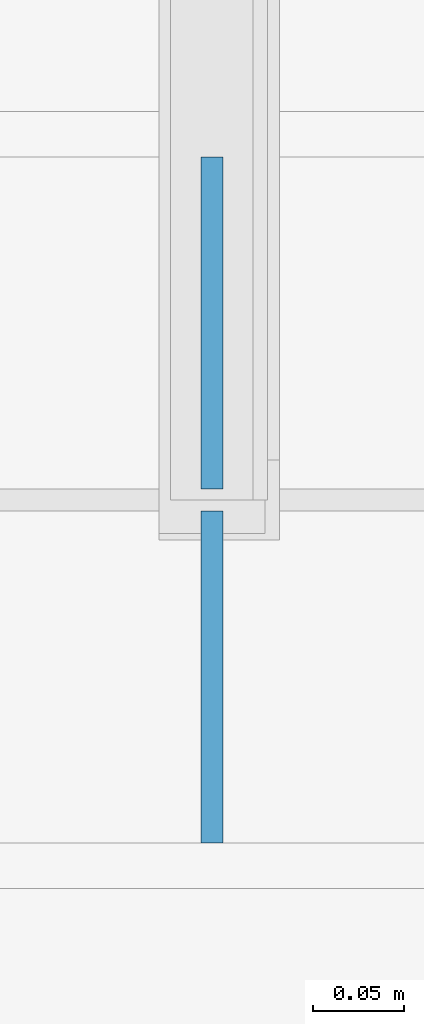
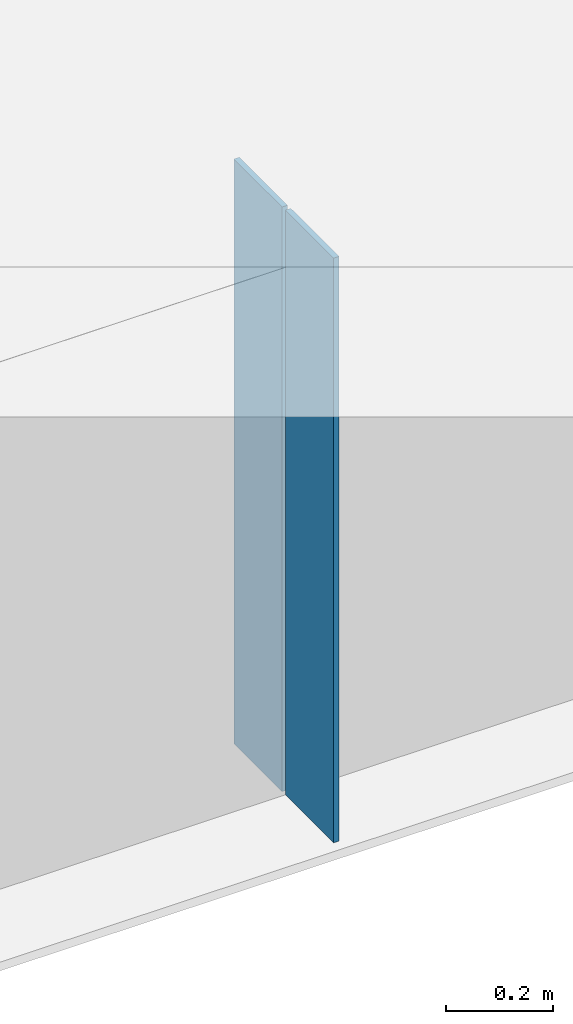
# One storey, part 5 of 13: 2 plates.
"""IFC4 building model written with IfcOpenShell, lengths in metres."""

from ifc_helpers import new_model, si_unit, frame, origin, origin_with_axes, origin_2d_with_axis, place, context, subcontext, project, spatial, rectangle, extrude, element, save


model = new_model("IFC4")

# Units and contexts
model_context = context("Model", 3, precision=1e-05, world=origin())
body_context = subcontext(model_context, "Body", "Model", "MODEL_VIEW")
ifc_project = project(units=[si_unit("LENGTHUNIT", "METRE"), si_unit("AREAUNIT", "SQUARE_METRE"), si_unit("VOLUMEUNIT", "CUBIC_METRE"), si_unit("PLANEANGLEUNIT", "RADIAN")], contexts=[model_context])

# Site, building, storey
site_placement = place(None, origin_with_axes())
site = spatial("IfcSite", under=ifc_project, at=site_placement, Name="Default Site")
building_placement = place(site_placement, origin_with_axes())
building = spatial("IfcBuilding", under=site, at=building_placement, Name="Bridge Structure")
storey_placement = place(building_placement, origin_with_axes())
storey = spatial("IfcBuildingStorey", under=building, at=storey_placement, Name="Superstructure")

# Plates
for number, where, z_axis, x_axis, name in (
    (1, (13.885, -5.40325, -0.6695), (0.0, 0.0, 1.0), (1.0, 0.0, 0.0), "Intermediate Stiffener 1"),
    (2, (13.885, -5.59675, -0.6695), (0.0, 0.0, 1.0), (1.0, 0.0, 0.0), "Intermediate Stiffener 1"),
):
    element("IfcPlate", number, at=place(storey_placement, frame(where, z_axis=z_axis, x_axis=x_axis)), inside=storey, Name=name, context=body_context, shape_type="SweptSolid", body=[
        extrude(rectangle(XDim=0.012, YDim=0.1815, at=origin_2d_with_axis()), origin_with_axes(), (0.0, 0.0, 1.0), 1.339),
    ])

save(model, "model.ifc")
